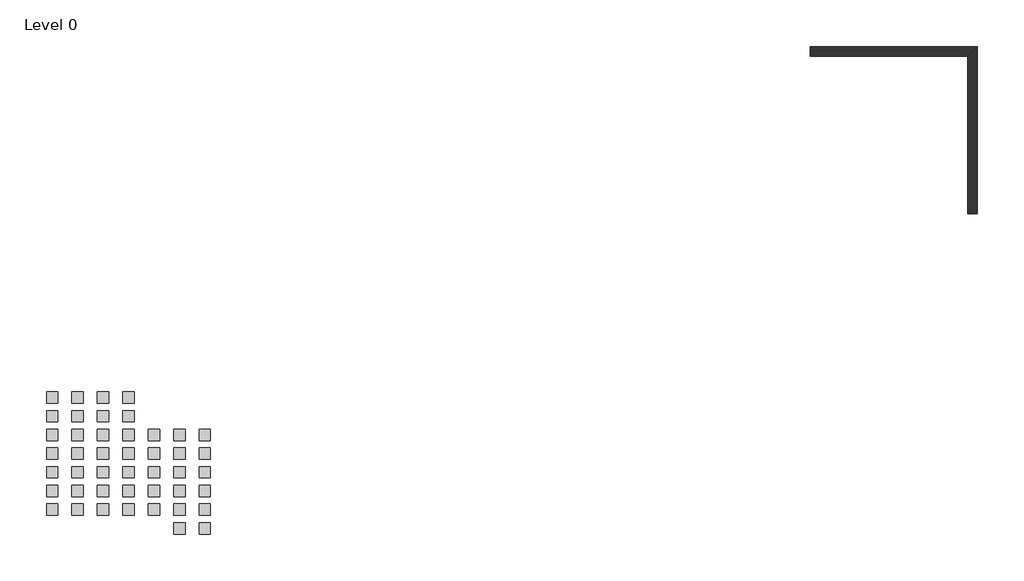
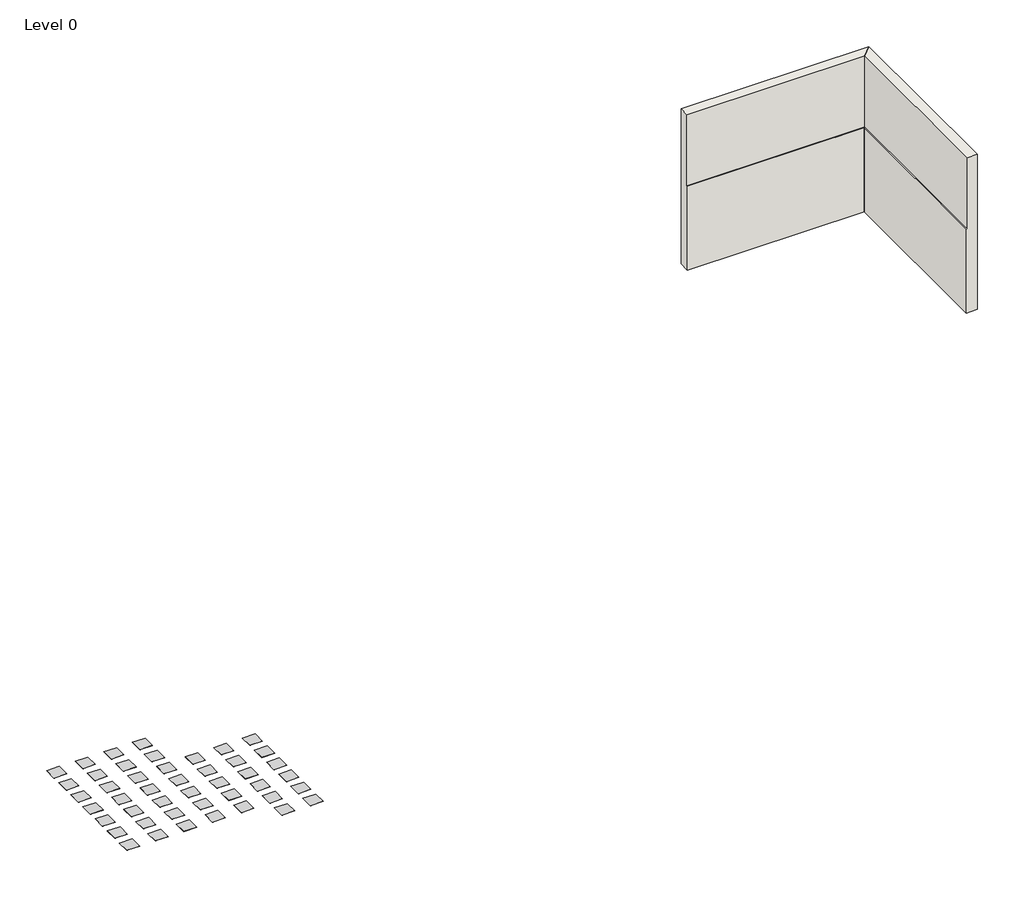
# One storey: 45 proxies, 2 walls.
"""IFC4 building model written with IfcOpenShell, lengths in millimetres."""

from ifc_helpers import new_model, si_unit, origin, place, context, project, spatial, faceted_brep, transform, mapped, element, save
from components import generic_models_07b58aa4

model = new_model("IFC4")

# Units and contexts
model_context = context("Model", 3, world=origin())
ifc_project = project(units=[si_unit("LENGTHUNIT", "METRE", prefix="MILLI")], contexts=[model_context])

# Site, building, storey
site = spatial("IfcSite", under=ifc_project)
building = spatial("IfcBuilding", under=site)
storey = spatial("IfcBuildingStorey", under=building, Name="Level 0", Elevation=0.0)

# Proxies
placement = place(None, origin())
generic_models_shape = generic_models_07b58aa4(model_context)
element("IfcBuildingElementProxy", 1, Name="Loggia_Placeholder : Loggia Placeholder", ObjectType="Loggia_Placeholder : Loggia Placeholder", at=placement, inside=storey, context=model_context, shape_type="MappedRepresentation", body=[
    mapped(generic_models_shape, transform((-9355.6736536, -4392.8576878, 0.0), x_axis=(1.0, 0.0, 0.0), y_axis=(0.0, 1.0, 0.0), z_axis=(0.0, 0.0, 1.0))),
])
element("IfcBuildingElementProxy", 2, Name="Loggia_Placeholder : Loggia Placeholder", ObjectType="Loggia_Placeholder : Loggia Placeholder", at=placement, inside=storey, context=model_context, shape_type="MappedRepresentation", body=[
    mapped(generic_models_shape, transform((-8902.4736536, -4392.8576878, 0.0), x_axis=(1.0, 0.0, 0.0), y_axis=(0.0, 1.0, 0.0), z_axis=(0.0, 0.0, 1.0))),
])
element("IfcBuildingElementProxy", 3, Name="Loggia_Placeholder : Loggia Placeholder", ObjectType="Loggia_Placeholder : Loggia Placeholder", at=placement, inside=storey, context=model_context, shape_type="MappedRepresentation", body=[
    mapped(generic_models_shape, transform((-8449.2736536, -4392.8576878, 0.0), x_axis=(1.0, 0.0, 0.0), y_axis=(0.0, 1.0, 0.0), z_axis=(0.0, 0.0, 1.0))),
])
element("IfcBuildingElementProxy", 4, Name="Loggia_Placeholder : Loggia Placeholder", ObjectType="Loggia_Placeholder : Loggia Placeholder", at=placement, inside=storey, context=model_context, shape_type="MappedRepresentation", body=[
    mapped(generic_models_shape, transform((-7996.0736536, -4392.8576878, 0.0), x_axis=(1.0, 0.0, 0.0), y_axis=(0.0, 1.0, 0.0), z_axis=(0.0, 0.0, 1.0))),
])
element("IfcBuildingElementProxy", 5, Name="Loggia_Placeholder : Loggia Placeholder", ObjectType="Loggia_Placeholder : Loggia Placeholder", at=placement, inside=storey, context=model_context, shape_type="MappedRepresentation", body=[
    mapped(generic_models_shape, transform((-9355.6736536, -4726.0576878, 0.0), x_axis=(1.0, 0.0, 0.0), y_axis=(0.0, 1.0, 0.0), z_axis=(0.0, 0.0, 1.0))),
])
element("IfcBuildingElementProxy", 6, Name="Loggia_Placeholder : Loggia Placeholder", ObjectType="Loggia_Placeholder : Loggia Placeholder", at=placement, inside=storey, context=model_context, shape_type="MappedRepresentation", body=[
    mapped(generic_models_shape, transform((-8902.4736536, -4726.0576878, 0.0), x_axis=(1.0, 0.0, 0.0), y_axis=(0.0, 1.0, 0.0), z_axis=(0.0, 0.0, 1.0))),
])
element("IfcBuildingElementProxy", 7, Name="Loggia_Placeholder : Loggia Placeholder", ObjectType="Loggia_Placeholder : Loggia Placeholder", at=placement, inside=storey, context=model_context, shape_type="MappedRepresentation", body=[
    mapped(generic_models_shape, transform((-8449.2736536, -4726.0576878, 0.0), x_axis=(1.0, 0.0, 0.0), y_axis=(0.0, 1.0, 0.0), z_axis=(0.0, 0.0, 1.0))),
])
element("IfcBuildingElementProxy", 8, Name="Loggia_Placeholder : Loggia Placeholder", ObjectType="Loggia_Placeholder : Loggia Placeholder", at=placement, inside=storey, context=model_context, shape_type="MappedRepresentation", body=[
    mapped(generic_models_shape, transform((-7996.0736536, -4726.0576878, 0.0), x_axis=(1.0, 0.0, 0.0), y_axis=(0.0, 1.0, 0.0), z_axis=(0.0, 0.0, 1.0))),
])
element("IfcBuildingElementProxy", 9, Name="Loggia_Placeholder : Loggia Placeholder", ObjectType="Loggia_Placeholder : Loggia Placeholder", at=placement, inside=storey, context=model_context, shape_type="MappedRepresentation", body=[
    mapped(generic_models_shape, transform((-9355.6736536, -5059.2576878, 0.0), x_axis=(1.0, 0.0, 0.0), y_axis=(0.0, 1.0, 0.0), z_axis=(0.0, 0.0, 1.0))),
])
element("IfcBuildingElementProxy", 10, Name="Loggia_Placeholder : Loggia Placeholder", ObjectType="Loggia_Placeholder : Loggia Placeholder", at=placement, inside=storey, context=model_context, shape_type="MappedRepresentation", body=[
    mapped(generic_models_shape, transform((-8902.4736536, -5059.2576878, 0.0), x_axis=(1.0, 0.0, 0.0), y_axis=(0.0, 1.0, 0.0), z_axis=(0.0, 0.0, 1.0))),
])
element("IfcBuildingElementProxy", 11, Name="Loggia_Placeholder : Loggia Placeholder", ObjectType="Loggia_Placeholder : Loggia Placeholder", at=placement, inside=storey, context=model_context, shape_type="MappedRepresentation", body=[
    mapped(generic_models_shape, transform((-8449.2736536, -5059.2576878, 0.0), x_axis=(1.0, 0.0, 0.0), y_axis=(0.0, 1.0, 0.0), z_axis=(0.0, 0.0, 1.0))),
])
element("IfcBuildingElementProxy", 12, Name="Loggia_Placeholder : Loggia Placeholder", ObjectType="Loggia_Placeholder : Loggia Placeholder", at=placement, inside=storey, context=model_context, shape_type="MappedRepresentation", body=[
    mapped(generic_models_shape, transform((-7996.0736536, -5059.2576878, 0.0), x_axis=(1.0, 0.0, 0.0), y_axis=(0.0, 1.0, 0.0), z_axis=(0.0, 0.0, 1.0))),
])
element("IfcBuildingElementProxy", 13, Name="Loggia_Placeholder : Loggia Placeholder", ObjectType="Loggia_Placeholder : Loggia Placeholder", at=placement, inside=storey, context=model_context, shape_type="MappedRepresentation", body=[
    mapped(generic_models_shape, transform((-7542.8736536, -5059.2576878, 0.0), x_axis=(1.0, 0.0, 0.0), y_axis=(0.0, 1.0, 0.0), z_axis=(0.0, 0.0, 1.0))),
])
element("IfcBuildingElementProxy", 14, Name="Loggia_Placeholder : Loggia Placeholder", ObjectType="Loggia_Placeholder : Loggia Placeholder", at=placement, inside=storey, context=model_context, shape_type="MappedRepresentation", body=[
    mapped(generic_models_shape, transform((-7089.6736536, -5059.2576878, 0.0), x_axis=(1.0, 0.0, 0.0), y_axis=(0.0, 1.0, 0.0), z_axis=(0.0, 0.0, 1.0))),
])
element("IfcBuildingElementProxy", 15, Name="Loggia_Placeholder : Loggia Placeholder", ObjectType="Loggia_Placeholder : Loggia Placeholder", at=placement, inside=storey, context=model_context, shape_type="MappedRepresentation", body=[
    mapped(generic_models_shape, transform((-6636.4736536, -5059.2576878, 0.0), x_axis=(1.0, 0.0, 0.0), y_axis=(0.0, 1.0, 0.0), z_axis=(0.0, 0.0, 1.0))),
])
element("IfcBuildingElementProxy", 16, Name="Loggia_Placeholder : Loggia Placeholder", ObjectType="Loggia_Placeholder : Loggia Placeholder", at=placement, inside=storey, context=model_context, shape_type="MappedRepresentation", body=[
    mapped(generic_models_shape, transform((-9355.6736536, -5392.4576878, 0.0), x_axis=(1.0, 0.0, 0.0), y_axis=(0.0, 1.0, 0.0), z_axis=(0.0, 0.0, 1.0))),
])
element("IfcBuildingElementProxy", 17, Name="Loggia_Placeholder : Loggia Placeholder", ObjectType="Loggia_Placeholder : Loggia Placeholder", at=placement, inside=storey, context=model_context, shape_type="MappedRepresentation", body=[
    mapped(generic_models_shape, transform((-8902.4736536, -5392.4576878, 0.0), x_axis=(1.0, 0.0, 0.0), y_axis=(0.0, 1.0, 0.0), z_axis=(0.0, 0.0, 1.0))),
])
element("IfcBuildingElementProxy", 18, Name="Loggia_Placeholder : Loggia Placeholder", ObjectType="Loggia_Placeholder : Loggia Placeholder", at=placement, inside=storey, context=model_context, shape_type="MappedRepresentation", body=[
    mapped(generic_models_shape, transform((-8449.2736536, -5392.4576878, 0.0), x_axis=(1.0, 0.0, 0.0), y_axis=(0.0, 1.0, 0.0), z_axis=(0.0, 0.0, 1.0))),
])
element("IfcBuildingElementProxy", 19, Name="Loggia_Placeholder : Loggia Placeholder", ObjectType="Loggia_Placeholder : Loggia Placeholder", at=placement, inside=storey, context=model_context, shape_type="MappedRepresentation", body=[
    mapped(generic_models_shape, transform((-7996.0736536, -5392.4576878, 0.0), x_axis=(1.0, 0.0, 0.0), y_axis=(0.0, 1.0, 0.0), z_axis=(0.0, 0.0, 1.0))),
])
element("IfcBuildingElementProxy", 20, Name="Loggia_Placeholder : Loggia Placeholder", ObjectType="Loggia_Placeholder : Loggia Placeholder", at=placement, inside=storey, context=model_context, shape_type="MappedRepresentation", body=[
    mapped(generic_models_shape, transform((-7542.8736536, -5392.4576878, 0.0), x_axis=(1.0, 0.0, 0.0), y_axis=(0.0, 1.0, 0.0), z_axis=(0.0, 0.0, 1.0))),
])
element("IfcBuildingElementProxy", 21, Name="Loggia_Placeholder : Loggia Placeholder", ObjectType="Loggia_Placeholder : Loggia Placeholder", at=placement, inside=storey, context=model_context, shape_type="MappedRepresentation", body=[
    mapped(generic_models_shape, transform((-7089.6736536, -5392.4576878, 0.0), x_axis=(1.0, 0.0, 0.0), y_axis=(0.0, 1.0, 0.0), z_axis=(0.0, 0.0, 1.0))),
])
element("IfcBuildingElementProxy", 22, Name="Loggia_Placeholder : Loggia Placeholder", ObjectType="Loggia_Placeholder : Loggia Placeholder", at=placement, inside=storey, context=model_context, shape_type="MappedRepresentation", body=[
    mapped(generic_models_shape, transform((-6636.4736536, -5392.4576878, 0.0), x_axis=(1.0, 0.0, 0.0), y_axis=(0.0, 1.0, 0.0), z_axis=(0.0, 0.0, 1.0))),
])
element("IfcBuildingElementProxy", 23, Name="Loggia_Placeholder : Loggia Placeholder", ObjectType="Loggia_Placeholder : Loggia Placeholder", at=placement, inside=storey, context=model_context, shape_type="MappedRepresentation", body=[
    mapped(generic_models_shape, transform((-9355.6736536, -5725.6576878, 0.0), x_axis=(1.0, 0.0, 0.0), y_axis=(0.0, 1.0, 0.0), z_axis=(0.0, 0.0, 1.0))),
])
element("IfcBuildingElementProxy", 24, Name="Loggia_Placeholder : Loggia Placeholder", ObjectType="Loggia_Placeholder : Loggia Placeholder", at=placement, inside=storey, context=model_context, shape_type="MappedRepresentation", body=[
    mapped(generic_models_shape, transform((-8902.4736536, -5725.6576878, 0.0), x_axis=(1.0, 0.0, 0.0), y_axis=(0.0, 1.0, 0.0), z_axis=(0.0, 0.0, 1.0))),
])
element("IfcBuildingElementProxy", 25, Name="Loggia_Placeholder : Loggia Placeholder", ObjectType="Loggia_Placeholder : Loggia Placeholder", at=placement, inside=storey, context=model_context, shape_type="MappedRepresentation", body=[
    mapped(generic_models_shape, transform((-8449.2736536, -5725.6576878, 0.0), x_axis=(1.0, 0.0, 0.0), y_axis=(0.0, 1.0, 0.0), z_axis=(0.0, 0.0, 1.0))),
])
element("IfcBuildingElementProxy", 26, Name="Loggia_Placeholder : Loggia Placeholder", ObjectType="Loggia_Placeholder : Loggia Placeholder", at=placement, inside=storey, context=model_context, shape_type="MappedRepresentation", body=[
    mapped(generic_models_shape, transform((-7996.0736536, -5725.6576878, 0.0), x_axis=(1.0, 0.0, 0.0), y_axis=(0.0, 1.0, 0.0), z_axis=(0.0, 0.0, 1.0))),
])
element("IfcBuildingElementProxy", 27, Name="Loggia_Placeholder : Loggia Placeholder", ObjectType="Loggia_Placeholder : Loggia Placeholder", at=placement, inside=storey, context=model_context, shape_type="MappedRepresentation", body=[
    mapped(generic_models_shape, transform((-7542.8736536, -5725.6576878, 0.0), x_axis=(1.0, 0.0, 0.0), y_axis=(0.0, 1.0, 0.0), z_axis=(0.0, 0.0, 1.0))),
])
element("IfcBuildingElementProxy", 28, Name="Loggia_Placeholder : Loggia Placeholder", ObjectType="Loggia_Placeholder : Loggia Placeholder", at=placement, inside=storey, context=model_context, shape_type="MappedRepresentation", body=[
    mapped(generic_models_shape, transform((-7089.6736536, -5725.6576878, 0.0), x_axis=(1.0, 0.0, 0.0), y_axis=(0.0, 1.0, 0.0), z_axis=(0.0, 0.0, 1.0))),
])
element("IfcBuildingElementProxy", 29, Name="Loggia_Placeholder : Loggia Placeholder", ObjectType="Loggia_Placeholder : Loggia Placeholder", at=placement, inside=storey, context=model_context, shape_type="MappedRepresentation", body=[
    mapped(generic_models_shape, transform((-6636.4736536, -5725.6576878, 0.0), x_axis=(1.0, 0.0, 0.0), y_axis=(0.0, 1.0, 0.0), z_axis=(0.0, 0.0, 1.0))),
])
element("IfcBuildingElementProxy", 30, Name="Loggia_Placeholder : Loggia Placeholder", ObjectType="Loggia_Placeholder : Loggia Placeholder", at=placement, inside=storey, context=model_context, shape_type="MappedRepresentation", body=[
    mapped(generic_models_shape, transform((-9355.6736536, -6058.8576878, 0.0), x_axis=(1.0, 0.0, 0.0), y_axis=(0.0, 1.0, 0.0), z_axis=(0.0, 0.0, 1.0))),
])
element("IfcBuildingElementProxy", 31, Name="Loggia_Placeholder : Loggia Placeholder", ObjectType="Loggia_Placeholder : Loggia Placeholder", at=placement, inside=storey, context=model_context, shape_type="MappedRepresentation", body=[
    mapped(generic_models_shape, transform((-8902.4736536, -6058.8576878, 0.0), x_axis=(1.0, 0.0, 0.0), y_axis=(0.0, 1.0, 0.0), z_axis=(0.0, 0.0, 1.0))),
])
element("IfcBuildingElementProxy", 32, Name="Loggia_Placeholder : Loggia Placeholder", ObjectType="Loggia_Placeholder : Loggia Placeholder", at=placement, inside=storey, context=model_context, shape_type="MappedRepresentation", body=[
    mapped(generic_models_shape, transform((-8449.2736536, -6058.8576878, 0.0), x_axis=(1.0, 0.0, 0.0), y_axis=(0.0, 1.0, 0.0), z_axis=(0.0, 0.0, 1.0))),
])
element("IfcBuildingElementProxy", 33, Name="Loggia_Placeholder : Loggia Placeholder", ObjectType="Loggia_Placeholder : Loggia Placeholder", at=placement, inside=storey, context=model_context, shape_type="MappedRepresentation", body=[
    mapped(generic_models_shape, transform((-7996.0736536, -6058.8576878, 0.0), x_axis=(1.0, 0.0, 0.0), y_axis=(0.0, 1.0, 0.0), z_axis=(0.0, 0.0, 1.0))),
])
element("IfcBuildingElementProxy", 34, Name="Loggia_Placeholder : Loggia Placeholder", ObjectType="Loggia_Placeholder : Loggia Placeholder", at=placement, inside=storey, context=model_context, shape_type="MappedRepresentation", body=[
    mapped(generic_models_shape, transform((-7542.8736536, -6058.8576878, 0.0), x_axis=(1.0, 0.0, 0.0), y_axis=(0.0, 1.0, 0.0), z_axis=(0.0, 0.0, 1.0))),
])
element("IfcBuildingElementProxy", 35, Name="Loggia_Placeholder : Loggia Placeholder", ObjectType="Loggia_Placeholder : Loggia Placeholder", at=placement, inside=storey, context=model_context, shape_type="MappedRepresentation", body=[
    mapped(generic_models_shape, transform((-7089.6736536, -6058.8576878, 0.0), x_axis=(1.0, 0.0, 0.0), y_axis=(0.0, 1.0, 0.0), z_axis=(0.0, 0.0, 1.0))),
])
element("IfcBuildingElementProxy", 36, Name="Loggia_Placeholder : Loggia Placeholder", ObjectType="Loggia_Placeholder : Loggia Placeholder", at=placement, inside=storey, context=model_context, shape_type="MappedRepresentation", body=[
    mapped(generic_models_shape, transform((-6636.4736536, -6058.8576878, 0.0), x_axis=(1.0, 0.0, 0.0), y_axis=(0.0, 1.0, 0.0), z_axis=(0.0, 0.0, 1.0))),
])
element("IfcBuildingElementProxy", 37, Name="Loggia_Placeholder : Loggia Placeholder", ObjectType="Loggia_Placeholder : Loggia Placeholder", at=placement, inside=storey, context=model_context, shape_type="MappedRepresentation", body=[
    mapped(generic_models_shape, transform((-9355.6736536, -6392.0576878, 0.0), x_axis=(1.0, 0.0, 0.0), y_axis=(0.0, 1.0, 0.0), z_axis=(0.0, 0.0, 1.0))),
])
element("IfcBuildingElementProxy", 38, Name="Loggia_Placeholder : Loggia Placeholder", ObjectType="Loggia_Placeholder : Loggia Placeholder", at=placement, inside=storey, context=model_context, shape_type="MappedRepresentation", body=[
    mapped(generic_models_shape, transform((-8902.4736536, -6392.0576878, 0.0), x_axis=(1.0, 0.0, 0.0), y_axis=(0.0, 1.0, 0.0), z_axis=(0.0, 0.0, 1.0))),
])
element("IfcBuildingElementProxy", 39, Name="Loggia_Placeholder : Loggia Placeholder", ObjectType="Loggia_Placeholder : Loggia Placeholder", at=placement, inside=storey, context=model_context, shape_type="MappedRepresentation", body=[
    mapped(generic_models_shape, transform((-8449.2736536, -6392.0576878, 0.0), x_axis=(1.0, 0.0, 0.0), y_axis=(0.0, 1.0, 0.0), z_axis=(0.0, 0.0, 1.0))),
])
element("IfcBuildingElementProxy", 40, Name="Loggia_Placeholder : Loggia Placeholder", ObjectType="Loggia_Placeholder : Loggia Placeholder", at=placement, inside=storey, context=model_context, shape_type="MappedRepresentation", body=[
    mapped(generic_models_shape, transform((-7996.0736536, -6392.0576878, 0.0), x_axis=(1.0, 0.0, 0.0), y_axis=(0.0, 1.0, 0.0), z_axis=(0.0, 0.0, 1.0))),
])
element("IfcBuildingElementProxy", 41, Name="Loggia_Placeholder : Loggia Placeholder", ObjectType="Loggia_Placeholder : Loggia Placeholder", at=placement, inside=storey, context=model_context, shape_type="MappedRepresentation", body=[
    mapped(generic_models_shape, transform((-7542.8736536, -6392.0576878, 0.0), x_axis=(1.0, 0.0, 0.0), y_axis=(0.0, 1.0, 0.0), z_axis=(0.0, 0.0, 1.0))),
])
element("IfcBuildingElementProxy", 42, Name="Loggia_Placeholder : Loggia Placeholder", ObjectType="Loggia_Placeholder : Loggia Placeholder", at=placement, inside=storey, context=model_context, shape_type="MappedRepresentation", body=[
    mapped(generic_models_shape, transform((-7089.6736536, -6392.0576878, 0.0), x_axis=(1.0, 0.0, 0.0), y_axis=(0.0, 1.0, 0.0), z_axis=(0.0, 0.0, 1.0))),
])
element("IfcBuildingElementProxy", 43, Name="Loggia_Placeholder : Loggia Placeholder", ObjectType="Loggia_Placeholder : Loggia Placeholder", at=placement, inside=storey, context=model_context, shape_type="MappedRepresentation", body=[
    mapped(generic_models_shape, transform((-6636.4736536, -6392.0576878, 0.0), x_axis=(1.0, 0.0, 0.0), y_axis=(0.0, 1.0, 0.0), z_axis=(0.0, 0.0, 1.0))),
])
element("IfcBuildingElementProxy", 44, Name="Loggia_Placeholder : Loggia Placeholder", ObjectType="Loggia_Placeholder : Loggia Placeholder", at=placement, inside=storey, context=model_context, shape_type="MappedRepresentation", body=[
    mapped(generic_models_shape, transform((-7089.6736536, -6725.2576878, 0.0), x_axis=(1.0, 0.0, 0.0), y_axis=(0.0, 1.0, 0.0), z_axis=(0.0, 0.0, 1.0))),
])
element("IfcBuildingElementProxy", 45, Name="Loggia_Placeholder : Loggia Placeholder", ObjectType="Loggia_Placeholder : Loggia Placeholder", at=placement, inside=storey, context=model_context, shape_type="MappedRepresentation", body=[
    mapped(generic_models_shape, transform((-6636.4736536, -6725.2576878, 0.0), x_axis=(1.0, 0.0, 0.0), y_axis=(0.0, 1.0, 0.0), z_axis=(0.0, 0.0, 1.0))),
])

# Walls
element("IfcWall", 46, ObjectType="Wall_Generic_Loggia-Showcase", at=placement, inside=storey, context=model_context, shape_type="Brep", body=[
    faceted_brep([(4160.5903752, 1688.5585818, 0.0), (6964.5903752, 1688.5585818, 0.0), (6964.5903752, 1688.5585818, 1406.4126577), (4160.5903752, 1688.5585818, 1406.4126577), (4160.5903752, 1864.5585818, 0.0), (4160.5903752, 1864.5585818, 2600.0), (7140.5903752, 1864.5585818, 2600.0), (7140.5903752, 1864.5585818, 0.0), (4160.5903752, 1704.5585818, 1406.4126577), (4160.5903752, 1704.5585818, 2600.0), (6980.5903752, 1704.5585818, 2600.0), (6980.5903752, 1704.5585818, 1406.4126577)], [[[0, 1, 2, 3]], [[4, 5, 6, 7]], [[1, 0, 4, 7]], [[0, 3, 8, 9, 5, 4]], [[10, 6, 5, 9]], [[8, 11, 10, 9]], [[3, 2, 11, 8]], [[2, 1, 7, 6, 10, 11]]]),
])
element("IfcWall", 47, ObjectType="Wall_Generic_Loggia-Showcase", at=placement, inside=storey, context=model_context, shape_type="Brep", body=[
    faceted_brep([(6964.5903752, 1688.5585818, 0.0), (6964.5903752, -1115.4414182, 0.0), (6964.5903752, -1115.4414182, 1406.4126577), (6964.5903752, 1688.5585818, 1406.4126577), (7140.5903752, 1864.5585818, 0.0), (7140.5903752, 1864.5585818, 2600.0), (7140.5903752, -1115.4414182, 2600.0), (7140.5903752, -1115.4414182, 0.0), (6980.5903752, -1115.4414182, 2600.0), (6980.5903752, -1115.4414182, 1406.4126577), (6980.5903752, 1704.5585818, 2600.0), (6980.5903752, 1704.5585818, 1406.4126577)], [[[0, 1, 2, 3]], [[4, 5, 6, 7]], [[1, 0, 4, 7]], [[2, 1, 7, 6, 8, 9]], [[8, 6, 5, 10]], [[11, 9, 8, 10]], [[3, 2, 9, 11]], [[0, 3, 11, 10, 5, 4]]]),
])

save(model, "model.ifc")
